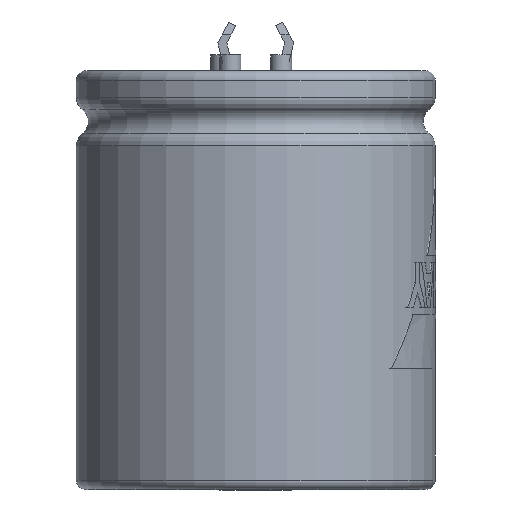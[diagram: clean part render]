
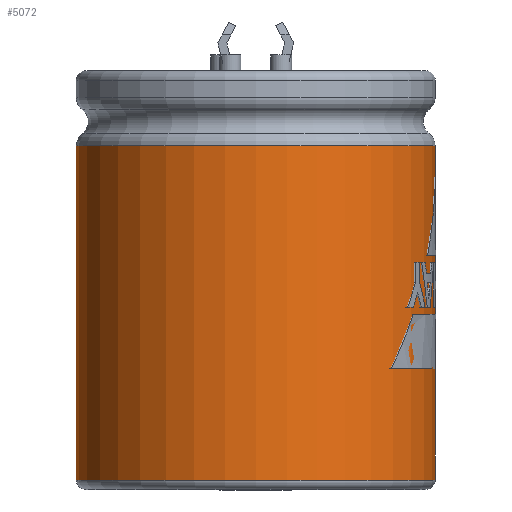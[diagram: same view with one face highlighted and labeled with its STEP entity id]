
A CAD part, left-side view. The second image highlights one B-rep face of the part: STEP entity #5072.
In plain terms, the highlighted cylindrical face has radius 18 mm (diameter 36 mm), a full revolution.
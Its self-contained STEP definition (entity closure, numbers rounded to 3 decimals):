
#5004 = TOROIDAL_SURFACE('',#5005,16.5,1.5);
#5005 = AXIS2_PLACEMENT_3D('',#5006,#5007,#5008);
#5006 = CARTESIAN_POINT('',(0.,0.,-6.55));
#5007 = DIRECTION('',(0.,0.,1.));
#5008 = DIRECTION('',(1.,0.,0.));
#5020 = EDGE_CURVE('',#5021,#5021,#5023,.T.);
#5021 = VERTEX_POINT('',#5022);
#5022 = CARTESIAN_POINT('',(18.,0.,-6.55));
#5023 = SURFACE_CURVE('',#5024,(#5029,#5036),.PCURVE_S1.);
#5024 = CIRCLE('',#5025,18.);
#5025 = AXIS2_PLACEMENT_3D('',#5026,#5027,#5028);
#5026 = CARTESIAN_POINT('',(0.,0.,-6.55));
#5027 = DIRECTION('',(0.,0.,1.));
#5028 = DIRECTION('',(1.,0.,0.));
#5029 = PCURVE('',#5004,#5030);
#5030 = DEFINITIONAL_REPRESENTATION('',(#5031),#5035);
#5031 = LINE('',#5032,#5033);
#5032 = CARTESIAN_POINT('',(0.,6.283));
#5033 = VECTOR('',#5034,1.);
#5034 = DIRECTION('',(1.,0.));
#5035 = ( GEOMETRIC_REPRESENTATION_CONTEXT(2) 
PARAMETRIC_REPRESENTATION_CONTEXT() REPRESENTATION_CONTEXT('2D SPACE',''
  ) );
#5036 = PCURVE('',#5037,#5042);
#5037 = CYLINDRICAL_SURFACE('',#5038,18.);
#5038 = AXIS2_PLACEMENT_3D('',#5039,#5040,#5041);
#5039 = CARTESIAN_POINT('',(0.,0.,-40.1));
#5040 = DIRECTION('',(0.,0.,1.));
#5041 = DIRECTION('',(1.,0.,0.));
#5042 = DEFINITIONAL_REPRESENTATION('',(#5043),#5047);
#5043 = LINE('',#5044,#5045);
#5044 = CARTESIAN_POINT('',(0.,33.55));
#5045 = VECTOR('',#5046,1.);
#5046 = DIRECTION('',(1.,0.));
#5047 = ( GEOMETRIC_REPRESENTATION_CONTEXT(2) 
PARAMETRIC_REPRESENTATION_CONTEXT() REPRESENTATION_CONTEXT('2D SPACE',''
  ) );
#5072 = ADVANCED_FACE('',(#5073),#5037,.T.);
#5073 = FACE_BOUND('',#5074,.T.);
#5074 = EDGE_LOOP('',(#5075,#5104,#5125,#5126));
#5075 = ORIENTED_EDGE('',*,*,#5076,.T.);
#5076 = EDGE_CURVE('',#5077,#5077,#5079,.T.);
#5077 = VERTEX_POINT('',#5078);
#5078 = CARTESIAN_POINT('',(18.,0.,-40.1));
#5079 = SURFACE_CURVE('',#5080,(#5085,#5092),.PCURVE_S1.);
#5080 = CIRCLE('',#5081,18.);
#5081 = AXIS2_PLACEMENT_3D('',#5082,#5083,#5084);
#5082 = CARTESIAN_POINT('',(0.,0.,-40.1));
#5083 = DIRECTION('',(0.,0.,1.));
#5084 = DIRECTION('',(1.,0.,0.));
#5085 = PCURVE('',#5037,#5086);
#5086 = DEFINITIONAL_REPRESENTATION('',(#5087),#5091);
#5087 = LINE('',#5088,#5089);
#5088 = CARTESIAN_POINT('',(0.,0.));
#5089 = VECTOR('',#5090,1.);
#5090 = DIRECTION('',(1.,0.));
#5091 = ( GEOMETRIC_REPRESENTATION_CONTEXT(2) 
PARAMETRIC_REPRESENTATION_CONTEXT() REPRESENTATION_CONTEXT('2D SPACE',''
  ) );
#5092 = PCURVE('',#5093,#5098);
#5093 = TOROIDAL_SURFACE('',#5094,17.05,0.95);
#5094 = AXIS2_PLACEMENT_3D('',#5095,#5096,#5097);
#5095 = CARTESIAN_POINT('',(0.,0.,-40.1));
#5096 = DIRECTION('',(0.,0.,1.));
#5097 = DIRECTION('',(1.,0.,0.));
#5098 = DEFINITIONAL_REPRESENTATION('',(#5099),#5103);
#5099 = LINE('',#5100,#5101);
#5100 = CARTESIAN_POINT('',(0.,6.283));
#5101 = VECTOR('',#5102,1.);
#5102 = DIRECTION('',(1.,0.));
#5103 = ( GEOMETRIC_REPRESENTATION_CONTEXT(2) 
PARAMETRIC_REPRESENTATION_CONTEXT() REPRESENTATION_CONTEXT('2D SPACE',''
  ) );
#5104 = ORIENTED_EDGE('',*,*,#5105,.T.);
#5105 = EDGE_CURVE('',#5077,#5021,#5106,.T.);
#5106 = SEAM_CURVE('',#5107,(#5111,#5118),.PCURVE_S1.);
#5107 = LINE('',#5108,#5109);
#5108 = CARTESIAN_POINT('',(18.,0.,-40.1));
#5109 = VECTOR('',#5110,1.);
#5110 = DIRECTION('',(0.,0.,1.));
#5111 = PCURVE('',#5037,#5112);
#5112 = DEFINITIONAL_REPRESENTATION('',(#5113),#5117);
#5113 = LINE('',#5114,#5115);
#5114 = CARTESIAN_POINT('',(0.,0.));
#5115 = VECTOR('',#5116,1.);
#5116 = DIRECTION('',(0.,1.));
#5117 = ( GEOMETRIC_REPRESENTATION_CONTEXT(2) 
PARAMETRIC_REPRESENTATION_CONTEXT() REPRESENTATION_CONTEXT('2D SPACE',''
  ) );
#5118 = PCURVE('',#5037,#5119);
#5119 = DEFINITIONAL_REPRESENTATION('',(#5120),#5124);
#5120 = LINE('',#5121,#5122);
#5121 = CARTESIAN_POINT('',(6.283,0.));
#5122 = VECTOR('',#5123,1.);
#5123 = DIRECTION('',(0.,1.));
#5124 = ( GEOMETRIC_REPRESENTATION_CONTEXT(2) 
PARAMETRIC_REPRESENTATION_CONTEXT() REPRESENTATION_CONTEXT('2D SPACE',''
  ) );
#5125 = ORIENTED_EDGE('',*,*,#5020,.F.);
#5126 = ORIENTED_EDGE('',*,*,#5105,.F.);
